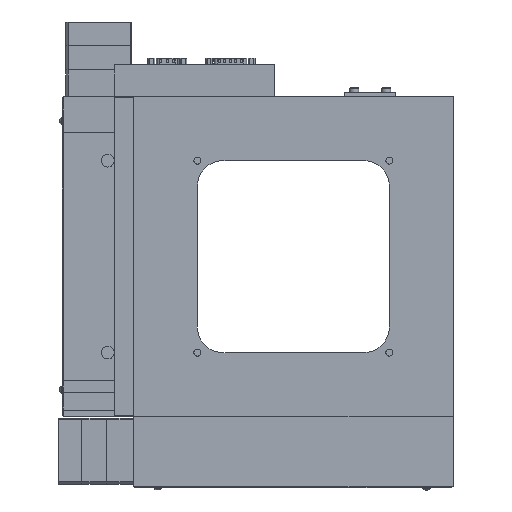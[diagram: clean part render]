
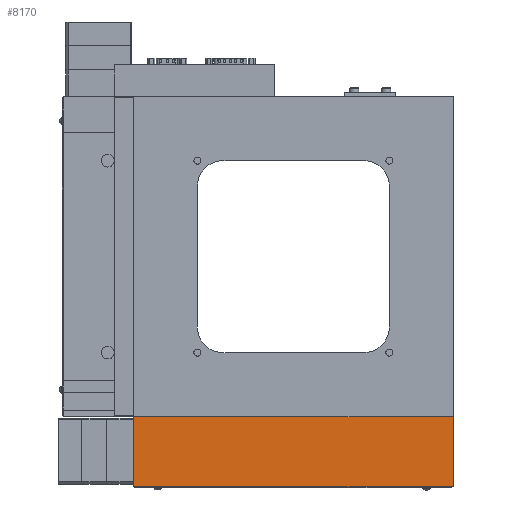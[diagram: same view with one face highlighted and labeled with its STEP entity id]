
A CAD part, front view. The second image highlights one B-rep face of the part: STEP entity #8170.
In plain terms, the highlighted planar face has unit normal (0, -1, 0).
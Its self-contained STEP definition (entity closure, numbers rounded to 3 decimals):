
#476 = AXIS2_PLACEMENT_3D ( 'NONE', #55353, #18549, #54897 ) ;
#4983 = CARTESIAN_POINT ( 'NONE',  ( -125., 0.2, -125. ) ) ;
#5631 = DIRECTION ( 'NONE',  ( 0., 0., -1. ) ) ;
#5703 = CARTESIAN_POINT ( 'NONE',  ( -125., 0.2, -125. ) ) ;
#8170 = ADVANCED_FACE ( 'NONE', ( #35973 ), #34041, .T. ) ;
#15447 = LINE ( 'NONE', #29115, #19465 ) ;
#16271 = VERTEX_POINT ( 'NONE', #5703 ) ;
#18549 = DIRECTION ( 'NONE',  ( 0., -1., 0. ) ) ;
#19465 = VECTOR ( 'NONE', #45181, 1000. ) ;
#20321 = CARTESIAN_POINT ( 'NONE',  ( 125., 0.2, -180. ) ) ;
#20472 = DIRECTION ( 'NONE',  ( -1., 0., 0. ) ) ;
#23919 = ORIENTED_EDGE ( 'NONE', *, *, #52373, .F. ) ;
#26452 = VECTOR ( 'NONE', #20472, 1000. ) ;
#26581 = CARTESIAN_POINT ( 'NONE',  ( 125., 0.2, -125. ) ) ;
#29115 = CARTESIAN_POINT ( 'NONE',  ( 181.47, 0.2, -180. ) ) ;
#34041 = PLANE ( 'NONE',  #476 ) ;
#34274 = VECTOR ( 'NONE', #66143, 1000. ) ;
#35360 = CARTESIAN_POINT ( 'NONE',  ( 181.47, 0.2, -125. ) ) ;
#35973 = FACE_OUTER_BOUND ( 'NONE', #53423, .T. ) ;
#37883 = VERTEX_POINT ( 'NONE', #20321 ) ;
#43686 = VECTOR ( 'NONE', #5631, 1000. ) ;
#45181 = DIRECTION ( 'NONE',  ( -1., 0., 0. ) ) ;
#47110 = LINE ( 'NONE', #4983, #34274 ) ;
#49043 = EDGE_CURVE ( 'NONE', #64206, #37883, #60639, .T. ) ;
#52373 = EDGE_CURVE ( 'NONE', #60878, #16271, #47110, .T. ) ;
#53423 = EDGE_LOOP ( 'NONE', ( #58902, #60261, #23919, #57395 ) ) ;
#54710 = EDGE_CURVE ( 'NONE', #37883, #60878, #15447, .T. ) ;
#54897 = DIRECTION ( 'NONE',  ( 0., 0., -1. ) ) ;
#55353 = CARTESIAN_POINT ( 'NONE',  ( 181.47, 0.2, -125. ) ) ;
#56919 = CARTESIAN_POINT ( 'NONE',  ( -125., 0.2, -180. ) ) ;
#57395 = ORIENTED_EDGE ( 'NONE', *, *, #54710, .F. ) ;
#58902 = ORIENTED_EDGE ( 'NONE', *, *, #49043, .F. ) ;
#60261 = ORIENTED_EDGE ( 'NONE', *, *, #64607, .T. ) ;
#60639 = LINE ( 'NONE', #26581, #43686 ) ;
#60767 = CARTESIAN_POINT ( 'NONE',  ( 125., 0.2, -125. ) ) ;
#60878 = VERTEX_POINT ( 'NONE', #56919 ) ;
#64206 = VERTEX_POINT ( 'NONE', #60767 ) ;
#64607 = EDGE_CURVE ( 'NONE', #64206, #16271, #65827, .T. ) ;
#65827 = LINE ( 'NONE', #35360, #26452 ) ;
#66143 = DIRECTION ( 'NONE',  ( 0., 0., 1. ) ) ;
